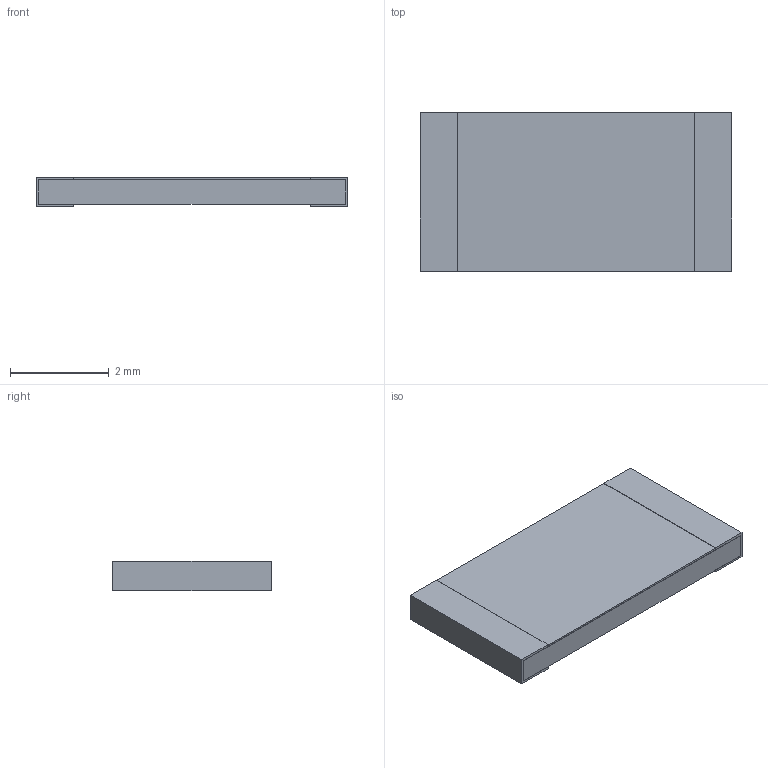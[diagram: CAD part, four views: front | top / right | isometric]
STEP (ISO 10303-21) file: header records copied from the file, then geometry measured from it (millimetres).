
FILE_DESCRIPTION(('STEP AP203'), '1');
FILE_NAME('Ð1-153 2512', '', ('UNSPECIFIED'), ('UNSPECIFIED'), 'ASCON STEP Converter 1.6', 'ASCON Math Kernel', '');
FILE_SCHEMA(('CONFIG_CONTROL_DESIGN'));
Length unit declared in the file: millimetre
Bounding box: 6.3 x 3.2 x 0.6 mm (x, y, z)
Volume: 11.2 mm3; surface area: 107.1 mm2
Topology: 4 solids, 4 shells, 32 faces, 72 edges, 48 vertices
Faces by surface type: plane 32
Entity records: 1194 total; most frequent: CARTESIAN_POINT 153, ORIENTED_EDGE 144, DIRECTION 138, EDGE_CURVE 72, LINE 72, VECTOR 72, VERTEX_POINT 48, COLOUR_RGB 36
